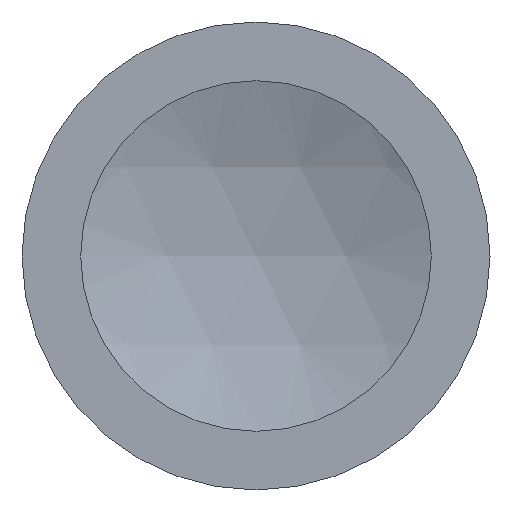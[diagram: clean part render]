
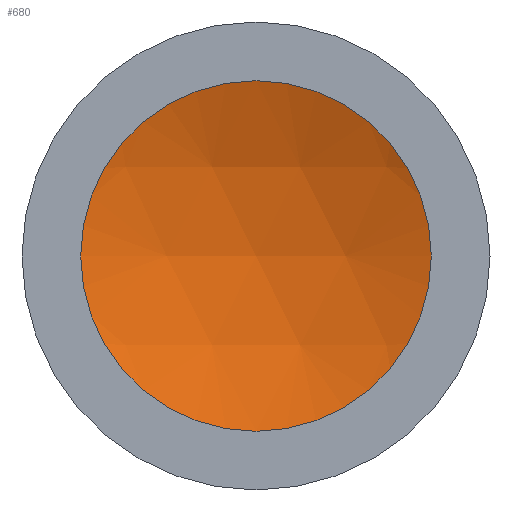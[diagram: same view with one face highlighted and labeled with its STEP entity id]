
A CAD part, left-side view. The second image highlights one B-rep face of the part: STEP entity #680.
In plain terms, the highlighted spherical face has radius 260 mm.
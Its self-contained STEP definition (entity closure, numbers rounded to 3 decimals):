
#14=SPHERICAL_SURFACE('',#782,260.);
#164=FACE_OUTER_BOUND('',#217,.T.);
#217=EDGE_LOOP('',(#560));
#261=CIRCLE('',#779,100.);
#317=VERTEX_POINT('',#1199);
#399=EDGE_CURVE('',#317,#317,#261,.T.);
#560=ORIENTED_EDGE('',*,*,#399,.T.);
#680=ADVANCED_FACE('',(#164),#14,.F.);
#779=AXIS2_PLACEMENT_3D('',#1200,#978,#979);
#782=AXIS2_PLACEMENT_3D('',#1204,#984,#985);
#978=DIRECTION('center_axis',(-1.,0.,0.));
#979=DIRECTION('ref_axis',(0.,0.,-1.));
#984=DIRECTION('center_axis',(0.,0.,1.));
#985=DIRECTION('ref_axis',(1.,0.,0.));
#1199=CARTESIAN_POINT('',(0.,0.,100.));
#1200=CARTESIAN_POINT('Origin',(0.,0.,0.));
#1204=CARTESIAN_POINT('Origin',(-240.,0.,0.));
